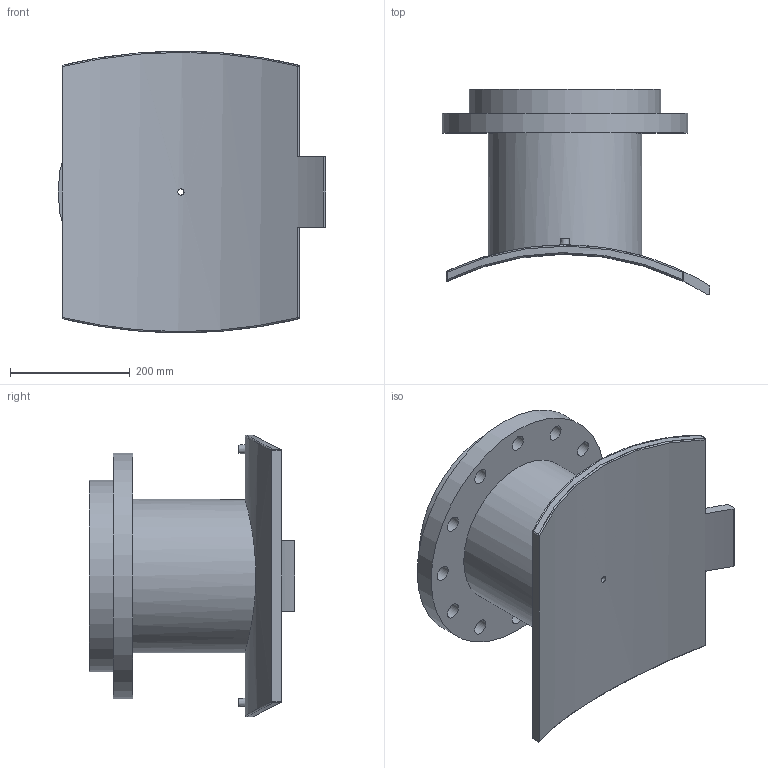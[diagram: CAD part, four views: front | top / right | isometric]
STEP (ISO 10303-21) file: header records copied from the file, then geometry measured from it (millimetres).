
FILE_DESCRIPTION(/* description */ ('PLASSON FLANGED BRANCH SADDLE 900X250'),/* implementation_level */ '2;1');
FILE_NAME(/* name */ 'C:\Dropbox\KIMPROJECTS-Inventor 2019\99-16-3568-Processing\ElectroFusion Fittings\495904_495903\stp\495903900250T.stp',/* time_stamp */ '2024-04-03T21:04:07+02:00',/* author */ ('KIM'),/* organization */ (''),/* preprocessor_version */ 'ST-DEVELOPER v17.2',/* originating_system */ 'Autodesk Inventor 2019',/* authorisation */ '');
FILE_SCHEMA (('AUTOMOTIVE_DESIGN { 1 0 10303 214 3 1 1 }'));
Length unit declared in the file: millimetre
Products named in the file (1): 495903900250T
Bounding box: 447 x 342.93 x 469.98 mm (x, y, z)
Volume: 11525001.1 mm3; surface area: 1018417.6 mm2
Topology: 1 solids, 1 shells, 62 faces, 163 edges, 126 vertices
Faces by surface type: cylinder 35, plane 17, sphere 4, bspline 4, cone 2
Full cylindrical faces by diameter (mm): 4 x2, 10 x2, 10.4 x1, 16 x1, 26 x12, 204 x1, 256 x1, 320 x1, 410 x1
Entity records: 2599 total; most frequent: CARTESIAN_POINT 971, DIRECTION 325, ORIENTED_EDGE 298, EDGE_CURVE 149, AXIS2_PLACEMENT_3D 137, VERTEX_POINT 100, EDGE_LOOP 99, CIRCLE 78
